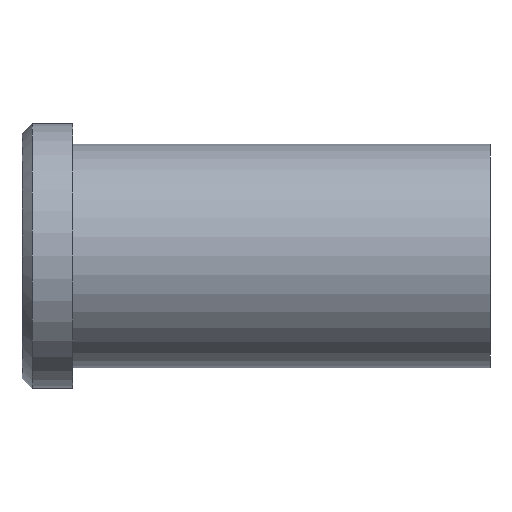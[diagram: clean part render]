
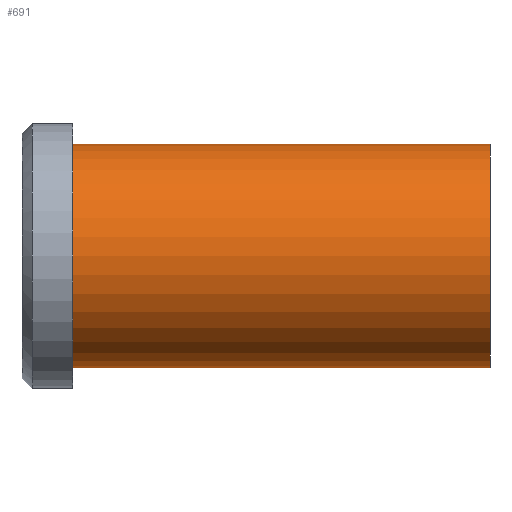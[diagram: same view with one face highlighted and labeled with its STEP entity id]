
A CAD part, front view. The second image highlights one B-rep face of the part: STEP entity #691.
In plain terms, the highlighted cylindrical face has radius 11 mm (diameter 22 mm), a partial arc.
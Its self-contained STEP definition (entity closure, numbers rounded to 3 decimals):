
#501=CARTESIAN_POINT('Vertex',(0.,0.,-11.)) ;
#506=CARTESIAN_POINT('Axis2P3D Location',(0.,0.,0.)) ;
#510=CARTESIAN_POINT('Vertex',(0.,-11.,0.)) ;
#513=CARTESIAN_POINT('Axis2P3D Location',(0.,0.,0.)) ;
#517=CARTESIAN_POINT('Vertex',(0.,0.,11.)) ;
#631=CARTESIAN_POINT('Line Origine',(41.,0.,11.)) ;
#635=CARTESIAN_POINT('Vertex',(41.,0.,11.)) ;
#649=CARTESIAN_POINT('Vertex',(41.,0.,-11.)) ;
#652=CARTESIAN_POINT('Line Origine',(41.,0.,-11.)) ;
#666=CARTESIAN_POINT('Axis2P3D Location',(41.,0.,0.)) ;
#671=CARTESIAN_POINT('Axis2P3D Location',(41.,0.,0.)) ;
#675=CARTESIAN_POINT('Vertex',(41.,-11.,0.)) ;
#678=CARTESIAN_POINT('Axis2P3D Location',(41.,0.,0.)) ;
#507=DIRECTION('Axis2P3D Direction',(1.,0.,-0.)) ;
#514=DIRECTION('Axis2P3D Direction',(1.,0.,-0.)) ;
#632=DIRECTION('Vector Direction',(-1.,0.,0.)) ;
#653=DIRECTION('Vector Direction',(-1.,0.,0.)) ;
#667=DIRECTION('Axis2P3D Direction',(-1.,-0.,-0.)) ;
#668=DIRECTION('Axis2P3D XDirection',(0.,0.,-1.)) ;
#672=DIRECTION('Axis2P3D Direction',(-1.,-0.,-0.)) ;
#679=DIRECTION('Axis2P3D Direction',(-1.,-0.,-0.)) ;
#508=AXIS2_PLACEMENT_3D('Circle Axis2P3D',#506,#507,$) ;
#515=AXIS2_PLACEMENT_3D('Circle Axis2P3D',#513,#514,$) ;
#669=AXIS2_PLACEMENT_3D('Cylinder Axis2P3D',#666,#667,#668) ;
#673=AXIS2_PLACEMENT_3D('Circle Axis2P3D',#671,#672,$) ;
#680=AXIS2_PLACEMENT_3D('Circle Axis2P3D',#678,#679,$) ;
#684=ORIENTED_EDGE('',*,*,#656,.T.) ;
#685=ORIENTED_EDGE('',*,*,#677,.F.) ;
#686=ORIENTED_EDGE('',*,*,#682,.F.) ;
#687=ORIENTED_EDGE('',*,*,#637,.T.) ;
#688=ORIENTED_EDGE('',*,*,#519,.T.) ;
#689=ORIENTED_EDGE('',*,*,#512,.T.) ;
#633=VECTOR('Line Direction',#632,1.) ;
#654=VECTOR('Line Direction',#653,1.) ;
#691=ADVANCED_FACE('353-16X46',(#690),#670,.T.) ;
#509=CIRCLE('generated circle',#508,11.) ;
#516=CIRCLE('generated circle',#515,11.) ;
#674=CIRCLE('generated circle',#673,11.) ;
#681=CIRCLE('generated circle',#680,11.) ;
#670=CYLINDRICAL_SURFACE('generated cylinder',#669,11.) ;
#512=EDGE_CURVE('',#511,#502,#509,.T.) ;
#519=EDGE_CURVE('',#518,#511,#516,.T.) ;
#637=EDGE_CURVE('',#636,#518,#634,.T.) ;
#656=EDGE_CURVE('',#502,#650,#655,.F.) ;
#677=EDGE_CURVE('',#676,#650,#674,.F.) ;
#682=EDGE_CURVE('',#636,#676,#681,.F.) ;
#683=EDGE_LOOP('',(#684,#685,#686,#687,#688,#689)) ;
#690=FACE_OUTER_BOUND('',#683,.T.) ;
#634=LINE('Line',#631,#633) ;
#655=LINE('Line',#652,#654) ;
#502=VERTEX_POINT('',#501) ;
#511=VERTEX_POINT('',#510) ;
#518=VERTEX_POINT('',#517) ;
#636=VERTEX_POINT('',#635) ;
#650=VERTEX_POINT('',#649) ;
#676=VERTEX_POINT('',#675) ;
